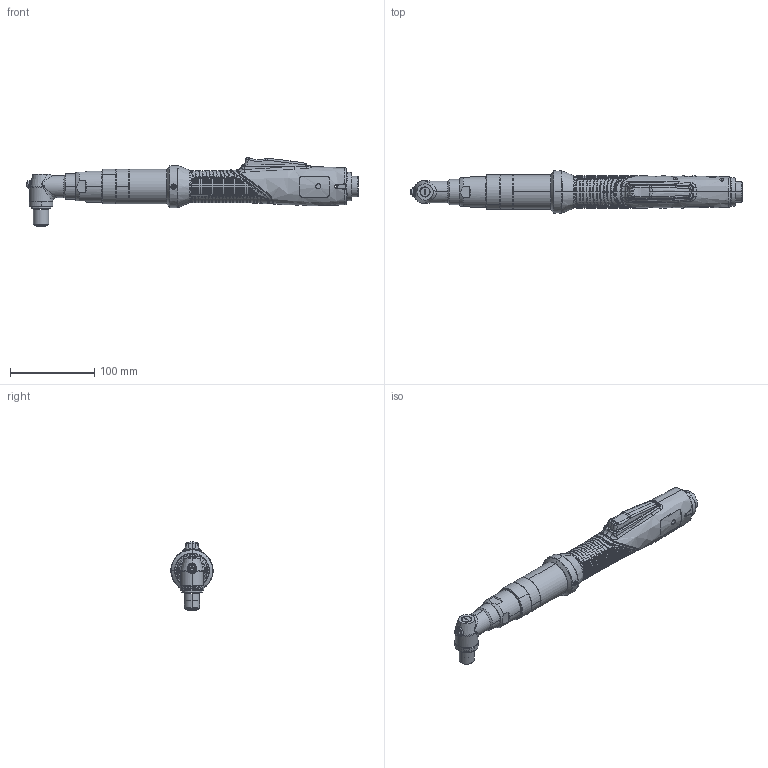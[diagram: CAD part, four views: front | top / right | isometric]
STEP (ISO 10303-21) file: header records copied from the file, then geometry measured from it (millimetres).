
FILE_DESCRIPTION (( 'STEP AP203' ), '1' );
FILE_NAME ('MDTL3211,3216-A.STEP', '2021-07-22T00:18:55', ( '' ), ( '' ), 'SwSTEP 2.0', 'SolidWorks 2020', '' );
FILE_SCHEMA (( 'CONFIG_CONTROL_DESIGN' ));
Length unit declared in the file: millimetre
Products named in the file (1): MDTL3211,3216-A
Bounding box: 393.88 x 49.99 x 81.12 mm (x, y, z)
Surface area: 69083.7 mm2 (no closed solid volume)
Topology: 0 solids, 37 shells, 2674 faces, 7998 edges, 5543 vertices
Faces by surface type: plane 1661, bspline 643, cylinder 275, cone 64, torus 31
Entity records: 153818 total; most frequent: CARTESIAN_POINT 95491, ORIENTED_EDGE 14016, EDGE_CURVE 7998, DIRECTION 6938, VERTEX_POINT 5543, B_SPLINE_CURVE_WITH_KNOTS 5446, EDGE_LOOP 3110, FACE_OUTER_BOUND 2674
